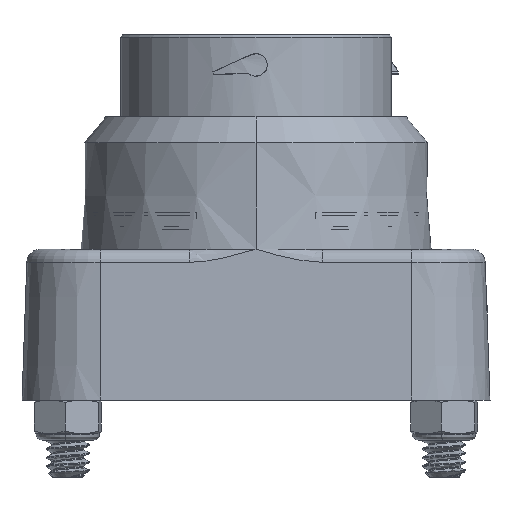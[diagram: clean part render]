
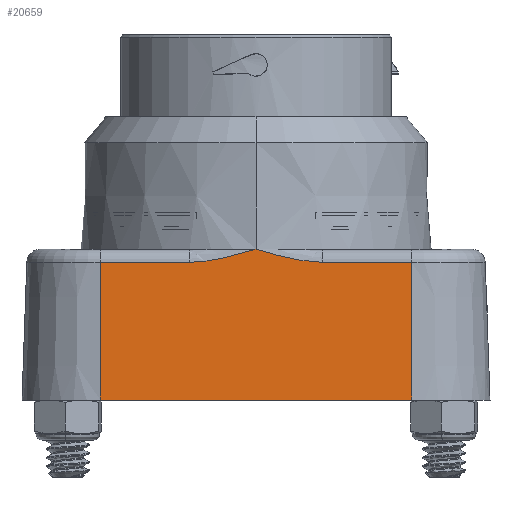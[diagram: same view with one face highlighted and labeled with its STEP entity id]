
A CAD part, front view. The second image highlights one B-rep face of the part: STEP entity #20659.
In plain terms, the highlighted planar face has unit normal (0, -0.999, 0.035) as drawn and (0.999, 0, 0.035) by its records, which use the part's own axes.
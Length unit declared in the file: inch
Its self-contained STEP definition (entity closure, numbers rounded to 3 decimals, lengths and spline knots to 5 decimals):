
#1910 = CARTESIAN_POINT ( 'NONE',  ( -0.86097, 0.59033, 0.71141 ) ) ;
#2224 = CARTESIAN_POINT ( 'NONE',  ( -0.86331, 0.2356, 0.77827 ) ) ;
#2375 = ORIENTED_EDGE ( 'NONE', *, *, #58242, .T. ) ;
#3072 = LINE ( 'NONE', #50554, #59461 ) ;
#3571 = VERTEX_POINT ( 'NONE', #70240 ) ;
#6751 = DIRECTION ( 'NONE',  ( 0., -1., 0. ) ) ;
#8527 = VECTOR ( 'NONE', #6751, 39.37008 ) ;
#9479 = CARTESIAN_POINT ( 'NONE',  ( -0.86363, 1.10985, 0.7874 ) ) ;
#9640 = CARTESIAN_POINT ( 'NONE',  ( -0.86363, 0.20394, 0.7874 ) ) ;
#10893 = CARTESIAN_POINT ( 'NONE',  ( -0.86097, -0.70196, 0.71141 ) ) ;
#11055 = CARTESIAN_POINT ( 'NONE',  ( -0.86097, 1.10985, 0.71141 ) ) ;
#11381 = CARTESIAN_POINT ( 'NONE',  ( -0.8616, -0.01926, 0.72948 ) ) ;
#12388 = VERTEX_POINT ( 'NONE', #29021 ) ;
#12920 = EDGE_LOOP ( 'NONE', ( #2375, #72858, #59053, #53666, #34425, #71531, #50268 ) ) ;
#15219 = VERTEX_POINT ( 'NONE', #56671 ) ;
#17974 = B_SPLINE_CURVE_WITH_KNOTS ( 'NONE', 3,
 ( #48063, #40659, #55430, #11381, #62859, #18756, #70303, #26175 ),
 .UNSPECIFIED., .F., .F.,
 ( 4, 2, 2, 4 ),
 ( -0.00003, 0.00499, 0.0075, 0.01001 ),
 .UNSPECIFIED. ) ;
#18756 = CARTESIAN_POINT ( 'NONE',  ( -0.86107, -0.11657, 0.7143 ) ) ;
#18835 = AXIS2_PLACEMENT_3D ( 'NONE', #61824, #32569, #84073 ) ;
#20523 = CARTESIAN_POINT ( 'NONE',  ( -0.86097, -0.18244, 0.71141 ) ) ;
#20659 = ADVANCED_FACE ( 'NONE', ( #64325 ), #61487, .T. ) ;
#23428 = EDGE_CURVE ( 'NONE', #71522, #63427, #3072, .T. ) ;
#24094 = CARTESIAN_POINT ( 'NONE',  ( -0.86107, 0.52446, 0.7143 ) ) ;
#26175 = CARTESIAN_POINT ( 'NONE',  ( -0.86097, -0.18244, 0.71141 ) ) ;
#26668 = DIRECTION ( 'NONE',  ( 0., -1., 0. ) ) ;
#29021 = CARTESIAN_POINT ( 'NONE',  ( -0.83299, 1.10985, -0.09 ) ) ;
#31531 = CARTESIAN_POINT ( 'NONE',  ( -0.8616, 0.42714, 0.72948 ) ) ;
#31627 = EDGE_CURVE ( 'NONE', #12388, #65509, #85150, .T. ) ;
#31632 = VECTOR ( 'NONE', #94782, 39.37008 ) ;
#32569 = DIRECTION ( 'NONE',  ( 0.999, 0., 0.035 ) ) ;
#32670 = B_SPLINE_CURVE_WITH_KNOTS ( 'NONE', 3,
 ( #1910, #45981, #24094, #75651, #31531, #83055, #38909, #90418, #46294, #2224, #53675, #9640 ),
 .UNSPECIFIED., .F., .F.,
 ( 4, 2, 2, 2, 2, 4 ),
 ( 0., 0.0025, 0.005, 0.0075, 0.00875, 0.01001 ),
 .UNSPECIFIED. ) ;
#34425 = ORIENTED_EDGE ( 'NONE', *, *, #31627, .T. ) ;
#34895 = VERTEX_POINT ( 'NONE', #20523 ) ;
#38909 = CARTESIAN_POINT ( 'NONE',  ( -0.86239, 0.33088, 0.75193 ) ) ;
#40099 = EDGE_CURVE ( 'NONE', #65509, #3571, #84605, .T. ) ;
#40659 = CARTESIAN_POINT ( 'NONE',  ( -0.86299, 0.14063, 0.76911 ) ) ;
#42461 = CARTESIAN_POINT ( 'NONE',  ( -0.83299, -0.70196, -0.09 ) ) ;
#43274 = CARTESIAN_POINT ( 'NONE',  ( -0.83299, -1.04842, -0.09 ) ) ;
#45981 = CARTESIAN_POINT ( 'NONE',  ( -0.86097, 0.55719, 0.71141 ) ) ;
#46294 = CARTESIAN_POINT ( 'NONE',  ( -0.86299, 0.2673, 0.76928 ) ) ;
#48063 = CARTESIAN_POINT ( 'NONE',  ( -0.86363, 0.20394, 0.7874 ) ) ;
#50268 = ORIENTED_EDGE ( 'NONE', *, *, #75372, .T. ) ;
#50554 = CARTESIAN_POINT ( 'NONE',  ( -0.86363, -0.70196, 0.7874 ) ) ;
#51628 = EDGE_CURVE ( 'NONE', #34895, #71522, #64339, .T. ) ;
#53666 = ORIENTED_EDGE ( 'NONE', *, *, #90804, .T. ) ;
#53675 = CARTESIAN_POINT ( 'NONE',  ( -0.86347, 0.21971, 0.78285 ) ) ;
#55430 = CARTESIAN_POINT ( 'NONE',  ( -0.86235, 0.07719, 0.75094 ) ) ;
#56671 = CARTESIAN_POINT ( 'NONE',  ( -0.86363, 0.20394, 0.7874 ) ) ;
#58168 = CARTESIAN_POINT ( 'NONE',  ( -0.86097, -1.12716, 0.71141 ) ) ;
#58242 = EDGE_CURVE ( 'NONE', #15219, #34895, #17974, .T. ) ;
#59053 = ORIENTED_EDGE ( 'NONE', *, *, #23428, .T. ) ;
#59461 = VECTOR ( 'NONE', #94660, 39.37008 ) ;
#61487 = PLANE ( 'NONE',  #18835 ) ;
#61824 = CARTESIAN_POINT ( 'NONE',  ( -0.86363, -1.12716, 0.7874 ) ) ;
#62859 = CARTESIAN_POINT ( 'NONE',  ( -0.86139, -0.05154, 0.72331 ) ) ;
#63427 = VERTEX_POINT ( 'NONE', #42461 ) ;
#64325 = FACE_OUTER_BOUND ( 'NONE', #12920, .T. ) ;
#64339 = LINE ( 'NONE', #70817, #66655 ) ;
#65509 = VERTEX_POINT ( 'NONE', #11055 ) ;
#66655 = VECTOR ( 'NONE', #26668, 39.37008 ) ;
#68380 = DIRECTION ( 'NONE',  ( -0.035, 0., 0.999 ) ) ;
#70240 = CARTESIAN_POINT ( 'NONE',  ( -0.86097, 0.59033, 0.71141 ) ) ;
#70303 = CARTESIAN_POINT ( 'NONE',  ( -0.86097, -0.14931, 0.71141 ) ) ;
#70817 = CARTESIAN_POINT ( 'NONE',  ( -0.86097, -1.12716, 0.71141 ) ) ;
#71522 = VERTEX_POINT ( 'NONE', #10893 ) ;
#71531 = ORIENTED_EDGE ( 'NONE', *, *, #40099, .T. ) ;
#72858 = ORIENTED_EDGE ( 'NONE', *, *, #51628, .T. ) ;
#75372 = EDGE_CURVE ( 'NONE', #3571, #15219, #32670, .T. ) ;
#75651 = CARTESIAN_POINT ( 'NONE',  ( -0.86139, 0.45943, 0.72331 ) ) ;
#83055 = CARTESIAN_POINT ( 'NONE',  ( -0.8621, 0.36284, 0.74379 ) ) ;
#84073 = DIRECTION ( 'NONE',  ( 0.035, 0., -0.999 ) ) ;
#84605 = LINE ( 'NONE', #58168, #8527 ) ;
#85150 = LINE ( 'NONE', #9479, #89684 ) ;
#89684 = VECTOR ( 'NONE', #68380, 39.37008 ) ;
#90363 = LINE ( 'NONE', #43274, #31632 ) ;
#90418 = CARTESIAN_POINT ( 'NONE',  ( -0.86284, 0.28317, 0.76485 ) ) ;
#90804 = EDGE_CURVE ( 'NONE', #63427, #12388, #90363, .T. ) ;
#94660 = DIRECTION ( 'NONE',  ( 0.035, 0., -0.999 ) ) ;
#94782 = DIRECTION ( 'NONE',  ( 0., 1., 0. ) ) ;
